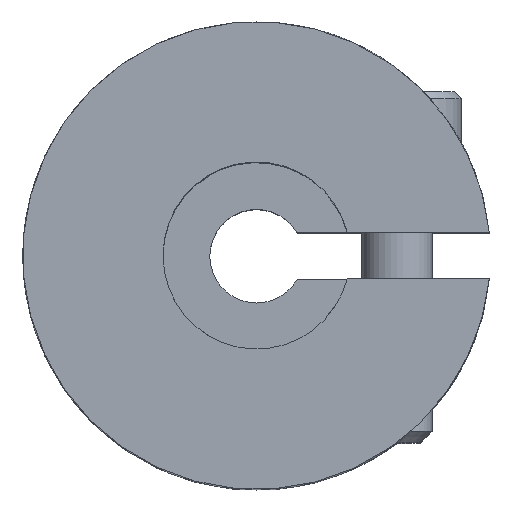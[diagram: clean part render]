
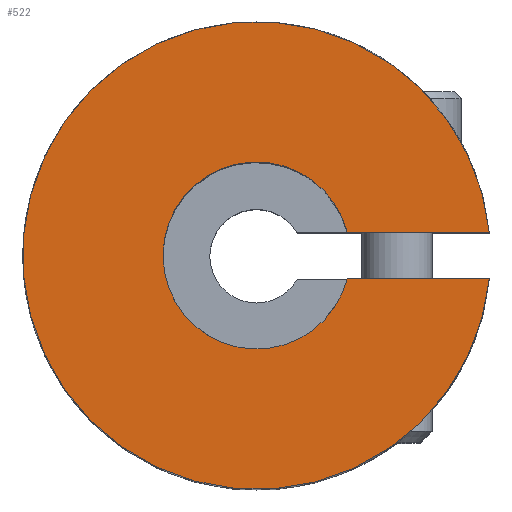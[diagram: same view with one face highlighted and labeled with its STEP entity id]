
A CAD part, top view. The second image highlights one B-rep face of the part: STEP entity #522.
In plain terms, the highlighted planar face has unit normal (0, 0, 1).
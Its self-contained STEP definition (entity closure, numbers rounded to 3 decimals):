
#522=ADVANCED_FACE('',(#1284),#1286,.T.);
#1284=FACE_BOUND('',#1285,.T.);
#1285=EDGE_LOOP('',(#1915,#1916,#1917,#1918));
#1286=PLANE('',#1287);
#1287=AXIS2_PLACEMENT_3D('',#1288,#1289,#1290);
#1288=CARTESIAN_POINT('',(0.,0.,12.5));
#1289=DIRECTION('',(0.,0.,1.));
#1290=DIRECTION('',(1.,0.,0.));
#1915=ORIENTED_EDGE('',*,*,#2236,.T.);
#1916=ORIENTED_EDGE('',*,*,#2116,.T.);
#1917=ORIENTED_EDGE('',*,*,#2234,.T.);
#1918=ORIENTED_EDGE('',*,*,#2160,.T.);
#2116=EDGE_CURVE('',#2344,#2342,#2345,.T.);
#2160=EDGE_CURVE('',#2432,#2430,#2433,.F.);
#2234=EDGE_CURVE('',#2342,#2432,#2544,.F.);
#2236=EDGE_CURVE('',#2430,#2344,#2547,.F.);
#2342=VERTEX_POINT('',#2804);
#2344=VERTEX_POINT('',#2808);
#2345=CIRCLE('',#2809,10.);
#2430=VERTEX_POINT('',#3975);
#2432=VERTEX_POINT('',#3979);
#2433=CIRCLE('',#3980,4.);
#2544=LINE('',#5456,#5457);
#2547=LINE('',#5464,#5465);
#2804=CARTESIAN_POINT('',(9.95,-1.,12.5));
#2808=CARTESIAN_POINT('',(9.95,1.,12.5));
#2809=AXIS2_PLACEMENT_3D('',#2810,#2811,#2812);
#2810=CARTESIAN_POINT('',(0.,0.,12.5));
#2811=DIRECTION('',(0.,0.,1.));
#2812=DIRECTION('',(0.995,0.1,0.));
#3975=CARTESIAN_POINT('',(3.873,1.,12.5));
#3979=CARTESIAN_POINT('',(3.873,-1.,12.5));
#3980=AXIS2_PLACEMENT_3D('',#3981,#3982,#3983);
#3981=CARTESIAN_POINT('',(0.,0.,12.5));
#3982=DIRECTION('',(0.,0.,1.));
#3983=DIRECTION('',(0.968,0.25,0.));
#5456=CARTESIAN_POINT('',(3.873,-1.,12.5));
#5457=VECTOR('',#5458,1.);
#5458=DIRECTION('',(1.,0.,0.));
#5464=CARTESIAN_POINT('',(9.95,1.,12.5));
#5465=VECTOR('',#5466,1.);
#5466=DIRECTION('',(-1.,0.,0.));
